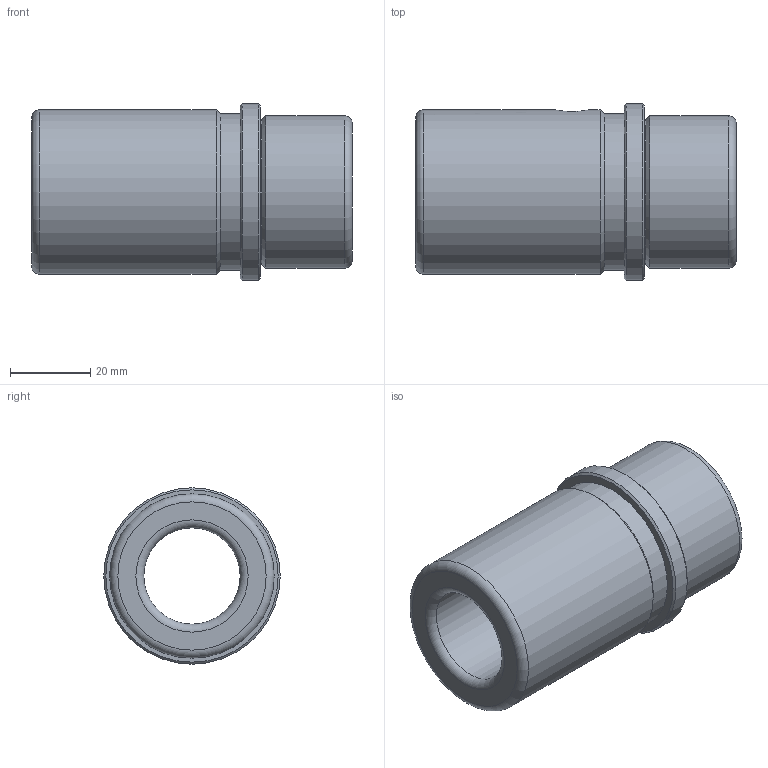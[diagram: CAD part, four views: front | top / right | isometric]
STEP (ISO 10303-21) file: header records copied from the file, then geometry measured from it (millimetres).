
FILE_DESCRIPTION( ( 'STEP AP214' ), '1' );
FILE_NAME( 'p:/temp/worker_24/temp/exporttempdir_2948_364_LlBEn/format_1/WZ - 4055 24 x 80.stp', '2020-12-04T19:46:16', ( 'License CC BY-ND 4.0' ), ( 'CADENAS' ), ' ', 'PARTsolutions', ' ' );
FILE_SCHEMA( ( 'AUTOMOTIVE_DESIGN { 1 0 10303 214 1 1 1 1 }' ) );
Length unit declared in the file: millimetre
Products named in the file (1): _WZ - 4055 24 x 80
Bounding box: 80 x 44 x 44 mm (x, y, z)
Volume: 64273.5 mm3; surface area: 18462 mm2
Topology: 1 solids, 1 shells, 21 faces, 38 edges, 22 vertices
Faces by surface type: cylinder 7, cone 5, plane 5, torus 4
Full cylindrical faces by diameter (mm): 8.376 x1, 24 x1, 36 x1, 38 x1, 39 x1, 41 x1, 44 x1
Entity records: 750 total; most frequent: CARTESIAN_POINT 196, DIRECTION 84, EDGE_LOOP 44, ORIENTED_EDGE 44, AXIS2_PLACEMENT_3D 42, FACE_OUTER_BOUND 32, EDGE_CURVE 22, VERTEX_POINT 22
